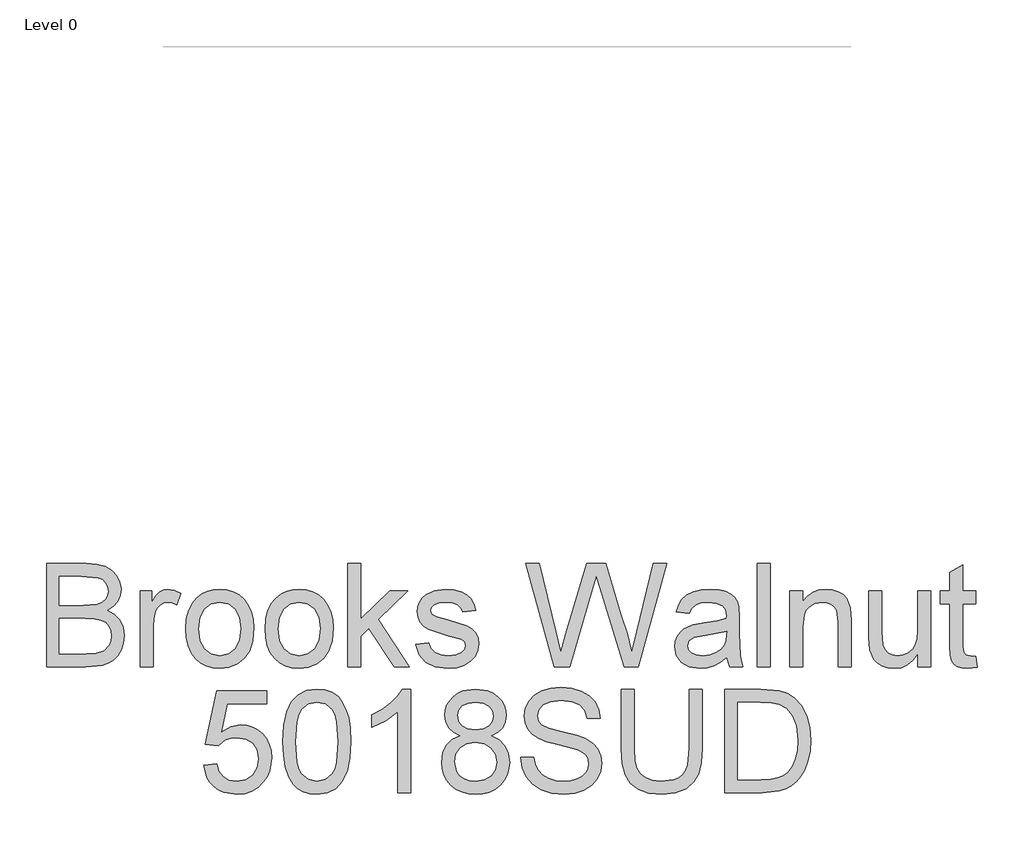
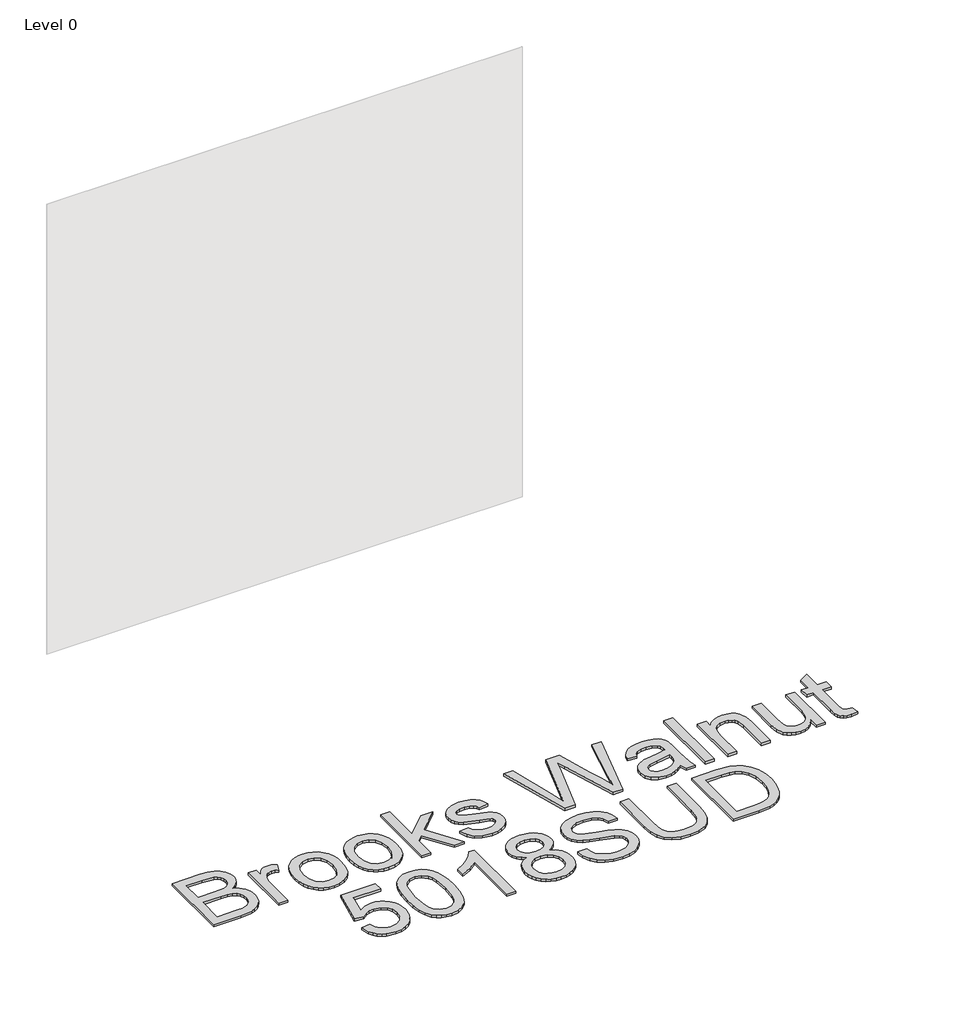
# One storey, part 9 of 43: 1 proxy.
"""IFC4 building model written with IfcOpenShell, lengths in millimetres."""

import ifcopenshell
import ifcopenshell.guid

model = None  # the IFC model being written
_history = None  # IfcOwnerHistory: only IFC2X3 demands one
_inside = {}  # id of a spatial element -> (the spatial element, [elements in it])
_under = {}  # id of a project, library or spatial element -> (it, [spatial elements below it])
_declared = {}  # id of a project -> (the project, [libraries it declares])
_typed = {}  # id of a type object -> (the type object, [elements of that type])
_made_of = {}  # id of a material, layer set ... -> (it, [elements and type objects made of it])


def new_model(schema):
    """Start an empty IFC model of exactly this schema.

    Asked for "IFC4X3", IfcOpenShell would pick the latest addendum, in which some entities
    have other attributes; the version numbers below select the first issue.
    IFC2X3 requires an IfcOwnerHistory on every rooted entity: one is made here for all.
    """
    global model, _history
    if schema == "IFC4X3":
        model = ifcopenshell.file(schema_version=(4, 3, 0, 0))
    else:
        model = ifcopenshell.file(schema=schema)
    _inside.clear()
    _under.clear()
    _declared.clear()
    _typed.clear()
    _made_of.clear()
    _history = None
    if model.schema == "IFC2X3":
        org = make("IfcOrganization", Name="unknown")
        user = make(
            "IfcPersonAndOrganization",
            ThePerson=make("IfcPerson", FamilyName="unknown"),
            TheOrganization=org,
        )
        app = make(
            "IfcApplication",
            ApplicationDeveloper=org,
            Version="unknown",
            ApplicationFullName="unknown",
            ApplicationIdentifier="unknown",
        )
        _history = make(
            "IfcOwnerHistory",
            OwningUser=user,
            OwningApplication=app,
            ChangeAction="ADDED",
            CreationDate=0,
        )
    return model


def make(cls, **values):
    """One entity of the class cls with the attributes given. An attribute that is None is left unset."""
    return model.create_entity(
        cls, **{name: value for name, value in values.items() if value is not None}
    )


def rooted(cls, **values):
    """An entity with a GlobalId (a new one), such as an element, a storey or a relation."""
    return make(cls, GlobalId=ifcopenshell.guid.new(), OwnerHistory=_history, **values)


def si_unit(unit_type, name, prefix=None):
    """IfcSIUnit, for example si_unit("LENGTHUNIT", "METRE", prefix="MILLI")."""
    return make("IfcSIUnit", UnitType=unit_type, Prefix=prefix, Name=name)


def assignment(units):
    """IfcUnitAssignment: the units of a project."""
    return None if units is None else make("IfcUnitAssignment", Units=units)


def point(xyz):
    """IfcCartesianPoint."""
    return None if xyz is None else make("IfcCartesianPoint", Coordinates=xyz)


def direction(xyz):
    """IfcDirection."""
    return None if xyz is None else make("IfcDirection", DirectionRatios=xyz)


def frame(location, z_axis=None, x_axis=None):
    """IfcAxis2Placement3D, a coordinate frame: its origin and axes. An axis left out is left unset."""
    return make(
        "IfcAxis2Placement3D",
        Location=point(location),
        Axis=direction(z_axis),
        RefDirection=direction(x_axis),
    )


def origin():
    """The frame at (0, 0, 0) with its axes left unset."""
    return frame((0.0, 0.0, 0.0))


def origin_with_axes():
    """The frame at (0, 0, 0) with the z axis (0, 0, 1) and the x axis (1, 0, 0) written out."""
    return frame((0.0, 0.0, 0.0), z_axis=(0.0, 0.0, 1.0), x_axis=(1.0, 0.0, 0.0))


def place(relative_to, where):
    """IfcLocalPlacement: puts the frame where relative to a parent placement (None: the world)."""
    return make(
        "IfcLocalPlacement", PlacementRelTo=relative_to, RelativePlacement=where
    )


def context(
    kind, dimensions, precision=None, world=None, true_north=None, identifier=None
):
    """IfcGeometricRepresentationContext, for example the 3D "Model" context."""
    return make(
        "IfcGeometricRepresentationContext",
        ContextIdentifier=identifier,
        ContextType=kind,
        CoordinateSpaceDimension=dimensions,
        Precision=precision,
        WorldCoordinateSystem=world,
        TrueNorth=true_north,
    )


def project(units=None, contexts=None):
    """IfcProject with its units and contexts."""
    return rooted(
        "IfcProject",
        Name="project",
        RepresentationContexts=contexts,
        UnitsInContext=assignment(units),
    )


def spatial(cls, under=None, at=None, **own):
    """A site, building, storey or space (cls), placed at a placement, below another one or the project."""
    s = rooted(cls, ObjectPlacement=at, **own)
    if under is not None:
        _under.setdefault(under.id(), (under, []))[1].append(s)
    return s


def polyline(points):
    """IfcPolyline through the points."""
    return make("IfcPolyline", Points=[point(p) for p in points])


def outline(outer, holes=None, kind="AREA"):
    """IfcArbitraryClosedProfileDef: a profile drawn as a closed curve; with holes, ...WithVoids."""
    if holes is None:
        return make("IfcArbitraryClosedProfileDef", ProfileType=kind, OuterCurve=outer)
    return make(
        "IfcArbitraryProfileDefWithVoids",
        ProfileType=kind,
        OuterCurve=outer,
        InnerCurves=holes,
    )


def extrude(swept, where, along, depth):
    """IfcExtrudedAreaSolid: the profile swept, set in the frame where, extruded along a direction by depth."""
    return make(
        "IfcExtrudedAreaSolid",
        SweptArea=swept,
        Position=where,
        ExtrudedDirection=direction(along),
        Depth=depth,
    )


def shape(context_of_items, identifier, shape_type, items):
    """IfcShapeRepresentation: the items that make up one representation, for example the "Body"."""
    return make(
        "IfcShapeRepresentation",
        ContextOfItems=context_of_items,
        RepresentationIdentifier=identifier,
        RepresentationType=shape_type,
        Items=items,
    )


def made_of(thing, what):
    """Note that an element or type object is made of a material, layer set ...; save() writes the relation."""
    if what is not None:
        _made_of.setdefault(what.id(), (what, []))[1].append(thing)
    return thing


def element(
    cls,
    number,
    at=None,
    inside=None,
    cuts=None,
    type_object=None,
    material=None,
    context=None,
    identifier="Body",
    shape_type=None,
    held_by="IfcProductDefinitionShape",
    body=None,
    shapes=None,
    **own,
):
    """One element of the class cls, such as IfcWall. Its Tag is "e" and its number.

    at: its placement. inside: the storey or other place that contains it. cuts: it is an
    opening in that element (IfcRelVoidsElement). A single representation is given by context,
    identifier, shape_type and body (its items); several are given by shapes. held_by: the class
    of the entity that holds the representations. save() writes the other relations.
    """
    e = rooted(cls, Tag="e%d" % number, ObjectPlacement=at, **own)
    if body is not None:
        shapes = [shape(context, identifier, shape_type, body)]
    if shapes is not None:
        e.Representation = make(held_by, Representations=shapes)
    if inside is not None:
        _inside.setdefault(inside.id(), (inside, []))[1].append(e)
    if cuts is not None:
        rooted(
            "IfcRelVoidsElement", RelatingBuildingElement=cuts, RelatedOpeningElement=e
        )
    if type_object is not None:
        _typed.setdefault(type_object.id(), (type_object, []))[1].append(e)
    return made_of(e, material)


def aggregate(whole, parts):
    """IfcRelAggregates: a whole, such as a stair, and the parts it consists of."""
    return rooted("IfcRelAggregates", RelatingObject=whole, RelatedObjects=parts)


def save(model, path):
    """Write the relations noted so far, then the file.

    IfcRelAggregates (storeys below a building ...), IfcRelContainedInSpatialStructure (elements
    in a storey), IfcRelDefinesByType, IfcRelAssociatesMaterial and IfcRelDeclares: one each for
    every whole, place, type object, material and project.
    """
    for whole, parts in _under.values():
        aggregate(whole, parts)
    for where, things in _inside.values():
        rooted(
            "IfcRelContainedInSpatialStructure",
            RelatedElements=things,
            RelatingStructure=where,
        )
    for kind, things in _typed.values():
        rooted("IfcRelDefinesByType", RelatedObjects=things, RelatingType=kind)
    for what, things in _made_of.values():
        rooted("IfcRelAssociatesMaterial", RelatedObjects=things, RelatingMaterial=what)
    for by, libraries in _declared.values():
        rooted("IfcRelDeclares", RelatingContext=by, RelatedDefinitions=libraries)
    model.write(path)


model = new_model("IFC4")

# Units and contexts
model_context = context("Model", 3, world=origin())
ifc_project = project(units=[si_unit("LENGTHUNIT", "METRE", prefix="MILLI")], contexts=[model_context])

# Site, building, storey
site = spatial("IfcSite", under=ifc_project)
building = spatial("IfcBuilding", under=site)
storey = spatial("IfcBuildingStorey", under=building, Name="Level 0", Elevation=0.0)

# Proxy
placement = place(None, origin())
element("IfcBuildingElementProxy", 1, Name="300mm Arial", ObjectType="300mm Arial", at=placement, inside=storey, context=model_context, shape_type="SweptSolid", body=[
    extrude(outline(polyline([(-10790.3371299, -17000.860494), (-10790.3371299, -16699.4915635), (-10675.3372183, -16699.4915635), (-10643.7085637, -16701.7080526), (-10619.0144848, -16708.3575196), (-10600.0869561, -16719.6055116), (-10585.7579524, -16735.6175755), (-10576.7356465, -16754.4531336), (-10573.7282112, -16774.1716086), (-10576.2573999, -16792.317388), (-10583.8449661, -16809.3779155), (-10596.5460919, -16824.3047274), (-10614.4159598, -16836.0493601), (-10593.0696071, -16847.1961846), (-10577.2966665, -16864.1555446), (-10567.5569907, -16885.8054), (-10564.3104321, -16911.0237108), (-10566.5269211, -16932.0389697), (-10573.1763882, -16951.5275184), (-10583.100005, -16968.1006023), (-10595.1389433, -16980.3694669), (-10609.8818143, -16989.253817), (-10627.9172291, -16995.6733578), (-10676.220135, -17000.860494), (-10790.3371299, -17000.860494)]), holes=[polyline([(-10752.6660136, -16821.9226915), (-10683.8720805, -16821.9226915), (-10643.6993667, -16818.68533), (-10629.6370774, -16813.1027207), (-10619.5295196, -16804.7426024), (-10613.4318755, -16793.7337336), (-10611.3993275, -16780.2048733), (-10613.2939198, -16767.071486), (-10618.9776966, -16755.630356), (-10628.1931406, -16746.7000206), (-10640.6827343, -16741.0990172), (-10689.0960049, -16737.1626798), (-10752.6660136, -16737.1626798), (-10752.6660136, -16821.9226915)]), polyline([(-10752.6660136, -16963.1893777), (-10675.4107946, -16963.1893777), (-10647.451763, -16961.7178497), (-10623.7969507, -16953.5140812), (-10608.1251777, -16936.7754504), (-10603.5174557, -16924.9480443), (-10601.9815484, -16911.3915928), (-10603.7841702, -16895.6462434), (-10609.1920355, -16882.1081859), (-10618.6374057, -16871.5223815), (-10632.5525422, -16864.6337912), (-10652.2618201, -16860.8538037), (-10679.0896146, -16859.5938078), (-10752.6660136, -16859.5938078), (-10752.6660136, -16963.1893777)])]), origin_with_axes(), (0.0, 0.0, 1.0), 10.0),
    extrude(outline(polyline([(-10517.2215367, -17000.860494), (-10517.2215367, -16779.5426857), (-10484.25931, -16779.5426857), (-10484.25931, -16812.2841833), (-10472.0824159, -16793.3014723), (-10460.8620151, -16782.1178596), (-10449.604826, -16776.654812), (-10437.3175674, -16774.8337961), (-10418.5555856, -16777.7400639), (-10399.4992983, -16786.4588672), (-10412.0808625, -16820.2304343), (-10425.3246143, -16814.4362929), (-10438.5683662, -16812.5049125), (-10449.8163582, -16814.3627165), (-10459.8687337, -16819.9361288), (-10467.9897287, -16828.8020848), (-10473.4435793, -16840.5375205), (-10478.0237101, -16861.5803706), (-10479.5504204, -16884.5362071), (-10479.5504204, -17000.860494), (-10517.2215367, -17000.860494)])), origin_with_axes(), (0.0, 0.0, 1.0), 10.0),
    extrude(outline(polyline([(-10385.3726297, -16890.2015898), (-10383.3354831, -16861.5389839), (-10377.2240435, -16836.8403064), (-10367.0383107, -16816.1055575), (-10352.7782849, -16799.334737), (-10338.42169, -16788.6155754), (-10322.5751731, -16780.9590314), (-10305.2387341, -16776.3651049), (-10286.4123729, -16774.8337961), (-10265.6293395, -16776.698498), (-10246.8374673, -16782.2926036), (-10230.0367565, -16791.6161129), (-10215.2272069, -16804.669026), (-10203.1399841, -16821.0098843), (-10194.5062535, -16840.1972296), (-10189.3260152, -16862.2310619), (-10187.599269, -16887.1113811), (-10190.6526896, -16925.1687735), (-10199.8129513, -16954.1394806), (-10214.8133396, -16975.8353213), (-10235.3871402, -16992.0681143), (-10259.8237017, -17002.1940662), (-10286.4123729, -17005.5693835), (-10307.4989091, -17003.7115794), (-10326.4655252, -16998.1381672), (-10343.3122213, -16988.8491468), (-10358.0389974, -16975.8445183), (-10369.9974615, -16959.3450108), (-10378.5392216, -16939.5713536), (-10383.6642776, -16916.5235466), (-10385.3726297, -16890.2015898)]), holes=[polyline([(-10347.7015133, -16890.1280134), (-10343.3421117, -16924.2214773), (-10330.2639068, -16948.5108861), (-10310.58222, -16963.0514219), (-10286.4123729, -16967.8982672), (-10262.3528905, -16963.0238308), (-10242.7079919, -16948.4005215), (-10229.629787, -16923.789216), (-10225.2703854, -16888.950791), (-10229.6573781, -16855.8506085), (-10242.8183565, -16831.8922936), (-10262.4908462, -16817.3517577), (-10286.4123729, -16812.5049125), (-10310.58222, -16817.3333636), (-10330.2639068, -16831.8187172), (-10343.3421117, -16856.0529436), (-10347.7015133, -16890.1280134)])]), origin_with_axes(), (0.0, 0.0, 1.0), 10.0),
    extrude(outline(polyline([(-10154.6370423, -16890.2015898), (-10152.5998957, -16861.5389839), (-10146.4884561, -16836.8403064), (-10136.3027233, -16816.1055575), (-10122.0426975, -16799.334737), (-10107.6861026, -16788.6155754), (-10091.8395857, -16780.9590314), (-10074.5031467, -16776.3651049), (-10055.6767856, -16774.8337961), (-10034.8937521, -16776.698498), (-10016.1018799, -16782.2926036), (-9999.3011691, -16791.6161129), (-9984.4916195, -16804.669026), (-9972.4043967, -16821.0098843), (-9963.7706661, -16840.1972296), (-9958.5904278, -16862.2310619), (-9956.8636817, -16887.1113811), (-9959.9171022, -16925.1687735), (-9969.0773639, -16954.1394806), (-9984.0777523, -16975.8353213), (-10004.6515528, -16992.0681143), (-10029.0881144, -17002.1940662), (-10055.6767856, -17005.5693835), (-10076.7633217, -17003.7115794), (-10095.7299378, -16998.1381672), (-10112.5766339, -16988.8491468), (-10127.30341, -16975.8445183), (-10139.2618741, -16959.3450108), (-10147.8036342, -16939.5713536), (-10152.9286903, -16916.5235466), (-10154.6370423, -16890.2015898)]), holes=[polyline([(-10116.965926, -16890.1280134), (-10112.6065243, -16924.2214773), (-10099.5283194, -16948.5108861), (-10079.8466327, -16963.0514219), (-10055.6767856, -16967.8982672), (-10031.6173031, -16963.0238308), (-10011.9724045, -16948.4005215), (-9998.8941996, -16923.789216), (-9994.534798, -16888.950791), (-9998.9217908, -16855.8506085), (-10012.0827691, -16831.8922936), (-10031.7552588, -16817.3517577), (-10055.6767856, -16812.5049125), (-10079.8466327, -16817.3333636), (-10099.5283194, -16831.8187172), (-10112.6065243, -16856.0529436), (-10116.965926, -16890.1280134)])]), origin_with_axes(), (0.0, 0.0, 1.0), 10.0),
    extrude(outline(polyline([(-9914.4836758, -17000.860494), (-9914.4836758, -16699.4915635), (-9876.8125595, -16699.4915635), (-9876.8125595, -16861.4332178), (-9792.3468534, -16779.5426857), (-9740.2547629, -16779.5426857), (-9825.7505386, -16862.4632874), (-9735.5458734, -17000.860494), (-9779.54456, -17000.860494), (-9852.753077, -16888.6564855), (-9876.8125595, -16911.9802039), (-9876.8125595, -17000.860494), (-9914.4836758, -17000.860494)])), origin_with_axes(), (0.0, 0.0, 1.0), 10.0),
    extrude(outline(polyline([(-9716.7103152, -16934.9360404), (-9679.0391989, -16930.2271509), (-9673.0979047, -16946.3403823), (-9661.6015923, -16958.1861825), (-9644.4766855, -16965.470246), (-9621.6496077, -16967.8982672), (-9599.0984414, -16965.6725811), (-9583.2427274, -16958.9955229), (-9573.8617365, -16949.3202265), (-9570.7347395, -16938.0998256), (-9573.8801306, -16928.4981055), (-9583.3163038, -16921.1772538), (-9622.0910661, -16910.4350996), (-9678.8184697, -16892.0042116), (-9693.1750646, -16882.7427824), (-9703.576928, -16870.4831149), (-9709.8953013, -16856.0069584), (-9712.0014257, -16840.0960621), (-9710.3091685, -16825.5003439), (-9705.232397, -16812.0266659), (-9697.2309636, -16800.2084568), (-9686.7647208, -16790.5791455), (-9662.8156029, -16779.4323211), (-9630.4051992, -16774.8337961), (-9605.8858642, -16776.6824032), (-9584.5671026, -16782.2282242), (-9567.4238016, -16790.9286334), (-9555.4308485, -16802.2410048), (-9547.4845974, -16817.0022698), (-9542.4814023, -16836.0493601), (-9580.1525186, -16840.7582497), (-9584.9073934, -16828.9032524), (-9594.3159754, -16819.972917), (-9608.4702352, -16814.3719136), (-9627.4621432, -16812.5049125), (-9649.0936045, -16814.2891401), (-9663.5145787, -16819.6418232), (-9671.6263767, -16827.3673451), (-9674.3303094, -16836.2700893), (-9669.842149, -16847.2329728), (-9655.7890568, -16855.5471059), (-9623.3418648, -16863.5669334), (-9568.049201, -16881.2988455), (-9553.4442858, -16889.7785255), (-9542.3710377, -16901.3852025), (-9535.3904768, -16916.1556646), (-9533.0636232, -16934.1267001), (-9535.795147, -16952.7047408), (-9543.9897185, -16970.1791356), (-9557.3346379, -16985.1795239), (-9575.5172055, -16996.3355454), (-9597.4797606, -17003.260924), (-9622.1646425, -17005.5693835), (-9660.1484585, -17001.1180114), (-9687.8683668, -16987.763895), (-9706.3728312, -16965.654187), (-9716.7103152, -16934.9360404)])), origin_with_axes(), (0.0, 0.0, 1.0), 10.0),
    extrude(outline(polyline([(-9314.3209889, -17000.860494), (-9396.5058266, -16699.4915635), (-9357.6574879, -16699.4915635), (-9309.9799814, -16897.5592297), (-9295.2647015, -16958.7012173), (-9279.5193522, -16904.622564), (-9219.7753161, -16699.4915635), (-9163.7836765, -16699.4915635), (-9120.373601, -16848.189466), (-9101.7771662, -16903.3717653), (-9088.0735619, -16958.7012173), (-9073.7997404, -16899.3250633), (-9025.6807755, -16699.4915635), (-8986.8324368, -16699.4915635), (-9069.0908509, -17000.860494), (-9109.3371412, -17000.860494), (-9181.589165, -16768.359073), (-9191.6691317, -16735.9118811), (-9202.9998972, -16774.9809489), (-9268.8507743, -17000.860494), (-9314.3209889, -17000.860494)])), origin_with_axes(), (0.0, 0.0, 1.0), 10.0),
    extrude(outline(polyline([(-8812.6035239, -16972.6071568), (-8830.6021505, -16988.0398064), (-8849.134206, -16998.1381672), (-8868.6227547, -17003.7115794), (-8889.4908609, -17005.5693835), (-8920.9723626, -17001.0996173), (-8944.1949135, -16987.6903186), (-8958.5147202, -16967.3280501), (-8963.2879891, -16941.9993748), (-8961.4853673, -16926.3827841), (-8956.077502, -16912.2009331), (-8947.7357778, -16900.0608273), (-8937.1315792, -16890.5694718), (-8910.7544402, -16878.2086368), (-8878.1600954, -16872.5432541), (-8839.6428505, -16866.5835657), (-8812.8242531, -16859.5938078), (-8812.6035239, -16851.2060983), (-8815.1970919, -16834.3938912), (-8822.9777961, -16823.3942195), (-8840.3786145, -16815.2272392), (-8864.622038, -16812.5049125), (-8887.0628397, -16814.3167313), (-8902.7346127, -16819.7521878), (-8913.4215847, -16829.8045633), (-8920.9079833, -16845.4671392), (-8958.5790996, -16840.7582497), (-8952.0399971, -16820.156858), (-8942.2819272, -16803.9700502), (-8928.3943819, -16791.590821), (-8909.4668532, -16782.4121652), (-8886.3178787, -16776.7283884), (-8859.7659957, -16774.8337961), (-8834.2993645, -16776.5076592), (-8814.1118401, -16781.5292485), (-8798.8907225, -16789.0800264), (-8788.3233122, -16798.3414556), (-8781.3151602, -16809.7917827), (-8776.7718175, -16823.9092543), (-8774.9324076, -16856.8714811), (-8774.9324076, -16903.7396473), (-8773.0194212, -16969.1858542), (-8765.5146285, -17000.860494), (-8803.1857448, -17000.860494), (-8812.6035239, -16972.6071568)]), holes=[polyline([(-8812.6035239, -16897.2649241), (-8873.3776295, -16908.8164188), (-8905.7880333, -16914.9232599), (-8920.4665249, -16924.8560738), (-8925.6168728, -16939.3506244), (-8922.8117726, -16950.5526311), (-8914.3964719, -16959.7312869), (-8900.5549119, -16965.8565221), (-8881.4710334, -16967.8982672), (-8861.2375236, -16965.64499), (-8843.3584587, -16958.8851583), (-8828.8639081, -16948.9247533), (-8818.7839414, -16937.069756), (-8814.3141752, -16924.8560738), (-8812.8242531, -16907.933502), (-8812.6035239, -16897.2649241)])]), origin_with_axes(), (0.0, 0.0, 1.0), 10.0),
    extrude(outline(polyline([(-8723.1346226, -17000.860494), (-8723.1346226, -16699.4915635), (-8685.4635063, -16699.4915635), (-8685.4635063, -17000.860494), (-8723.1346226, -17000.860494)])), origin_with_axes(), (0.0, 0.0, 1.0), 10.0),
    extrude(outline(polyline([(-8628.9568319, -17000.860494), (-8628.9568319, -16779.5426857), (-8591.2857156, -16779.5426857), (-8591.2857156, -16810.4447733), (-8578.1983136, -16794.8649708), (-8562.4805554, -16783.7365404), (-8544.1324408, -16777.0594822), (-8523.1539701, -16774.8337961), (-8504.5851264, -16776.6272209), (-8487.5797811, -16782.0074951), (-8473.3979302, -16790.303234), (-8463.2995695, -16800.8430532), (-8452.0055922, -16828.5445674), (-8450.0190294, -16864.964885), (-8450.0190294, -17000.860494), (-8487.6901457, -17000.860494), (-8487.6901457, -16870.0416565), (-8492.0311533, -16836.7115477), (-8498.0368268, -16826.7879309), (-8507.3718325, -16819.0900002), (-8519.3371944, -16814.1511844), (-8533.2339367, -16812.5049125), (-8555.2976594, -16816.2021265), (-8574.1056264, -16827.2937687), (-8581.6219154, -16836.3482643), (-8586.9906933, -16848.7228949), (-8591.2857156, -16883.4325611), (-8591.2857156, -17000.860494), (-8628.9568319, -17000.860494)])), origin_with_axes(), (0.0, 0.0, 1.0), 10.0),
    extrude(outline(polyline([(-8256.9545584, -17000.860494), (-8256.9545584, -16962.8214957), (-8270.5845863, -16981.5236966), (-8286.4586944, -16994.8824116), (-8304.5768826, -17002.8976405), (-8324.9391511, -17005.5693835), (-8343.2872656, -17003.6931853), (-8360.3661872, -16998.0645908), (-8374.6951909, -16989.6033049), (-8384.7935517, -16979.2290327), (-8396.0139525, -16951.4907302), (-8398.2212445, -16916.4683643), (-8398.2212445, -16779.5426857), (-8360.5501282, -16779.5426857), (-8360.5501282, -16898.7364521), (-8358.2692598, -16937.1433324), (-8352.7786211, -16949.9548229), (-8343.370039, -16959.6944987), (-8330.6689131, -16965.8473251), (-8315.3006428, -16967.8982672), (-8299.0494557, -16965.8013398), (-8283.8467322, -16959.5105577), (-8271.3111532, -16949.605335), (-8263.0613995, -16936.6650858), (-8258.4812686, -16918.9423707), (-8256.9545584, -16894.6897502), (-8256.9545584, -16779.5426857), (-8219.2834421, -16779.5426857), (-8219.2834421, -17000.860494), (-8256.9545584, -17000.860494)])), origin_with_axes(), (0.0, 0.0, 1.0), 10.0),
    extrude(outline(polyline([(-8087.434535, -16969.4433716), (-8082.7256454, -17001.96414), (-8110.9054063, -17005.5693835), (-8128.9868063, -17004.005885), (-8142.4696815, -16999.3153896), (-8151.9978251, -16992.0865084), (-8158.2150309, -16982.9078526), (-8161.6363334, -16967.1441091), (-8162.7767676, -16940.1599648), (-8162.7767676, -16817.213802), (-8191.0301048, -16817.213802), (-8191.0301048, -16779.5426857), (-8162.7767676, -16779.5426857), (-8162.7767676, -16725.758338), (-8125.1056513, -16703.6118419), (-8125.1056513, -16779.5426857), (-8087.434535, -16779.5426857), (-8087.434535, -16817.213802), (-8125.1056513, -16817.213802), (-8125.1056513, -16939.0563188), (-8123.1190885, -16958.4804881), (-8116.6811536, -16965.3598814), (-8103.842072, -16967.8982672), (-8087.434535, -16969.4433716)])), origin_with_axes(), (0.0, 0.0, 1.0), 10.0),
    extrude(outline(polyline([(-10333.5748447, -17286.7338254), (-10295.9037284, -17282.0249358), (-10288.9875469, -17304.6404815), (-10276.9210175, -17320.8364863), (-10259.7593224, -17330.5761621), (-10237.557644, -17333.8227207), (-10210.5551055, -17329.3069693), (-10190.3215958, -17315.7597148), (-10177.6848493, -17294.7444558), (-10173.4726004, -17267.8246908), (-10177.4181348, -17242.4776213), (-10189.254738, -17223.0902402), (-10209.0743805, -17210.7845875), (-10236.9690328, -17206.6827032), (-10255.2435709, -17208.3197781), (-10270.0416242, -17213.2310027), (-10291.1948389, -17230.2271509), (-10328.8659552, -17225.5182614), (-10295.9037284, -17070.1249066), (-10149.9281527, -17070.1249066), (-10149.9281527, -17107.7960229), (-10265.4430992, -17107.7960229), (-10281.5563306, -17190.790201), (-10254.6457627, -17174.4562404), (-10226.4476077, -17169.0115869), (-10208.1017925, -17170.6992456), (-10191.2504978, -17175.7622215), (-10175.8937238, -17184.2005148), (-10162.0314704, -17196.0141254), (-10150.5558514, -17210.4810848), (-10142.3589807, -17226.8794248), (-10137.4408583, -17245.2091452), (-10135.8014841, -17265.470246), (-10141.7059901, -17303.1413624), (-10149.0866227, -17319.9351754), (-10159.4195082, -17335.3678251), (-10175.0728871, -17351.1729553), (-10193.3382282, -17362.4623341), (-10214.2155314, -17369.2359613), (-10237.7047968, -17371.4938371), (-10274.7045285, -17365.6904986), (-10290.3831992, -17358.4363255), (-10304.1810733, -17348.2804832), (-10315.6612908, -17335.7288093), (-10324.3869919, -17321.2871418), (-10333.5748447, -17286.7338254)])), origin_with_axes(), (0.0, 0.0, 1.0), 10.0),
    extrude(outline(polyline([(-10102.8392574, -17218.5285035), (-10100.0709453, -17170.2899768), (-10091.7660093, -17131.8187172), (-10078.0072227, -17102.5261133), (-10058.8773589, -17081.8235541), (-10034.2384623, -17069.5179013), (-10003.9525771, -17065.4160171), (-9980.7392232, -17067.8440382), (-9959.9538904, -17075.1281017), (-9942.5714662, -17086.983099), (-9929.5668376, -17103.1239216), (-9919.7443884, -17123.4126136), (-9911.9085019, -17147.7112194), (-9906.776548, -17178.5673217), (-9905.0658967, -17218.5285035), (-9907.8066176, -17266.4911186), (-9916.0287802, -17304.8704077), (-9929.7047934, -17334.1906027), (-9948.807066, -17354.9759355), (-9973.5011449, -17367.3643617), (-10003.9525771, -17371.4938371), (-10024.7011216, -17369.7004123), (-10043.0952213, -17364.3201381), (-10059.1348763, -17355.3530145), (-10072.8200866, -17342.7990414), (-10085.9534738, -17320.1053209), (-10095.3344647, -17291.828991), (-10100.9630592, -17257.9700519), (-10102.8392574, -17218.5285035)]), holes=[polyline([(-10065.1681411, -17218.4549271), (-10060.7535571, -17277.7115194), (-10055.2353272, -17297.9795181), (-10047.5098053, -17312.0073184), (-10027.7913303, -17328.3688702), (-10003.9525771, -17333.8227207), (-9980.1138238, -17328.3504761), (-9960.3953488, -17311.933742), (-9952.6698269, -17297.8829491), (-9947.151597, -17277.6195489), (-9942.7370131, -17218.4549271), (-9947.0044442, -17160.5319069), (-9952.3387331, -17140.3305869), (-9959.8067376, -17125.9693935), (-9979.4884244, -17108.8076984), (-10004.3940354, -17103.0871334), (-10027.9752713, -17108.1271167), (-10046.9211941, -17123.2470667), (-10054.9042334, -17138.8820515), (-10060.6064043, -17159.9616898), (-10065.1681411, -17218.4549271)])]), origin_with_axes(), (0.0, 0.0, 1.0), 10.0),
    extrude(outline(polyline([(-9730.8369838, -17366.7849475), (-9768.5081001, -17366.7849475), (-9768.5081001, -17131.9290818), (-9804.1926537, -17157.3497277), (-9843.8503328, -17176.3692268), (-9843.8503328, -17140.7582497), (-9814.2634233, -17124.6634124), (-9788.6312453, -17105.5151545), (-9768.4253267, -17085.1528861), (-9755.1171955, -17065.4160171), (-9730.8369838, -17065.4160171), (-9730.8369838, -17366.7849475)])), origin_with_axes(), (0.0, 0.0, 1.0), 10.0),
    extrude(outline(polyline([(-9586.4800889, -17200.7965913), (-9606.6492193, -17190.8637774), (-9620.8034791, -17177.3992964), (-9629.1635974, -17160.6790597), (-9631.9503035, -17140.9789789), (-9630.4327903, -17125.6153071), (-9625.8802506, -17111.5300252), (-9618.2926845, -17098.7231332), (-9607.6700918, -17087.1946312), (-9594.522909, -17077.6664875), (-9579.3615723, -17070.8606706), (-9542.9964371, -17065.4160171), (-9506.4105727, -17070.9894293), (-9491.0836891, -17077.9561946), (-9477.7341712, -17087.709666), (-9466.9184405, -17099.4634957), (-9459.1929186, -17112.4313361), (-9454.5576055, -17126.613187), (-9453.0125011, -17142.0090485), (-9455.762419, -17161.0745329), (-9464.0121727, -17177.509661), (-9477.8537328, -17190.8913686), (-9497.3790697, -17200.7965913), (-9474.1933069, -17212.7435591), (-9457.3167204, -17230.3375155), (-9447.0252216, -17252.732332), (-9443.594722, -17279.0818799), (-9445.2961762, -17297.8714528), (-9450.4005389, -17315.0975272), (-9458.90781, -17330.7601031), (-9470.8179896, -17344.8591806), (-9485.5056783, -17356.5118428), (-9502.3454766, -17364.8351729), (-9521.3373846, -17369.829171), (-9542.4814023, -17371.4938371), (-9563.62542, -17369.8222732), (-9582.617328, -17364.8075818), (-9599.4571263, -17356.4497627), (-9614.144815, -17344.748816), (-9626.0549946, -17330.5508703), (-9634.5622657, -17314.702054), (-9639.6666284, -17297.2023674), (-9641.3680826, -17278.0518103), (-9637.7996273, -17250.6813898), (-9627.0942612, -17228.1670117), (-9609.8038074, -17211.2812282), (-9586.4800889, -17200.7965913)]), holes=[polyline([(-9594.2791872, -17142.0826249), (-9590.9406581, -17158.52695), (-9580.9250708, -17171.6603373), (-9564.5267309, -17180.268776), (-9542.0399439, -17183.1382555), (-9520.0773888, -17180.2871701), (-9503.9273692, -17171.7339137), (-9493.9945553, -17159.0419848), (-9490.6836174, -17143.774882), (-9494.1049199, -17127.9283651), (-9504.3688276, -17114.822569), (-9520.7395764, -17106.0209923), (-9542.4814023, -17103.0871334), (-9564.361184, -17105.9566129), (-9580.7043416, -17114.5650516), (-9590.8854758, -17127.1834041), (-9594.2791872, -17142.0826249)]), polyline([(-9603.6969663, -17276.7274351), (-9597.4061842, -17305.0911369), (-9588.6965779, -17317.2588339), (-9575.1493235, -17326.317928), (-9558.9257275, -17331.9465226), (-9542.1870967, -17333.8227207), (-9516.5457216, -17329.8771864), (-9497.3054933, -17318.0405832), (-9485.2757521, -17300.1155329), (-9481.2658383, -17277.9046575), (-9485.4045108, -17255.316703), (-9497.8205281, -17236.9961796), (-9517.5022148, -17224.8560738), (-9543.4378955, -17220.8093718), (-9568.7205856, -17224.8008915), (-9587.7676759, -17236.7754504), (-9599.7146437, -17254.7464859), (-9603.6969663, -17276.7274351)])]), origin_with_axes(), (0.0, 0.0, 1.0), 10.0),
    extrude(outline(polyline([(-9410.6324952, -17263.1893777), (-9372.9613789, -17263.1893777), (-9368.6387655, -17284.0942721), (-9360.8212731, -17300.8972822), (-9348.6259849, -17314.2330045), (-9331.1699843, -17324.7360355), (-9309.8328286, -17331.5510494), (-9285.9940753, -17333.8227207), (-9265.0064074, -17332.1028724), (-9246.6307018, -17326.9433274), (-9231.740678, -17318.7763471), (-9221.2100559, -17308.0341929), (-9214.9468649, -17295.700949), (-9212.8591346, -17282.7606998), (-9214.4226331, -17270.1515444), (-9219.1131285, -17259.2530403), (-9228.6412722, -17249.9548229), (-9244.7177154, -17242.1465276), (-9299.5689209, -17227.7623415), (-9335.5753712, -17218.2433949), (-9358.6139811, -17209.1843008), (-9377.3667658, -17196.510766), (-9390.6565029, -17181.1516928), (-9398.5751628, -17163.4381747), (-9401.2147162, -17143.7013056), (-9397.9497634, -17121.637583), (-9388.1549053, -17101.0637824), (-9372.0876592, -17083.6261758), (-9350.0055424, -17070.9710352), (-9323.4996447, -17063.2731044), (-9294.1610556, -17060.7071275), (-9262.3760512, -17063.3926661), (-9234.5641723, -17071.4492818), (-9211.7187004, -17084.7114277), (-9194.8329169, -17103.013557), (-9184.1459449, -17125.2152354), (-9179.8969079, -17150.1760288), (-9217.5680242, -17150.1760288), (-9224.4842057, -17127.6984389), (-9238.9051799, -17111.4748429), (-9261.4379521, -17101.6523936), (-9292.6895276, -17098.3782438), (-9324.6768671, -17101.6156054), (-9346.6210281, -17111.3276901), (-9359.3129569, -17125.6199056), (-9363.5435998, -17142.5976597), (-9360.5453616, -17157.0738162), (-9351.5506468, -17168.7172813), (-9330.2870675, -17179.1283418), (-9290.0407772, -17189.7601314), (-9248.5069, -17199.8584922), (-9223.3805597, -17208.669266), (-9201.9054482, -17222.3360821), (-9186.923454, -17239.2034716), (-9178.1218772, -17259.0874934), (-9175.1880183, -17281.8042066), (-9178.5633356, -17305.0267576), (-9188.6892875, -17326.869751), (-9205.1520068, -17345.668521), (-9227.5376262, -17359.7584014), (-9254.4573912, -17368.5599781), (-9284.5225473, -17371.4938371), (-9321.4303085, -17368.3300519), (-9351.8081642, -17358.8386964), (-9376.0056024, -17342.9829824), (-9394.372111, -17320.7261217), (-9406.162729, -17293.6132187), (-9410.6324952, -17263.1893777)])), origin_with_axes(), (0.0, 0.0, 1.0), 10.0),
    extrude(outline(polyline([(-8920.9079833, -17065.4160171), (-8883.2368669, -17065.4160171), (-8883.2368669, -17239.277048), (-8885.7936468, -17279.9923878), (-8893.4639864, -17311.3451308), (-8907.7929901, -17335.533372), (-8930.3257623, -17354.7552063), (-8961.1174853, -17367.3091794), (-9000.2233414, -17371.4938371), (-9038.4738719, -17367.8518053), (-9069.0540627, -17356.92571), (-9091.973111, -17339.0926303), (-9107.2402138, -17314.7296452), (-9115.8210613, -17282.052527), (-9118.6813439, -17239.277048), (-9118.6813439, -17065.4160171), (-9081.0102276, -17065.4160171), (-9081.0102276, -17237.9526728), (-9079.1524235, -17271.8070134), (-9073.5790113, -17295.3790523), (-9063.4806505, -17311.7038158), (-9048.0480008, -17323.8163305), (-9027.9248556, -17331.3211232), (-9003.7550086, -17333.8227207), (-8965.4400988, -17328.8747079), (-8951.0972995, -17322.6896919), (-8939.9642706, -17314.0306694), (-8931.6271449, -17301.8537754), (-8925.6720551, -17285.1151446), (-8920.9079833, -17237.9526728), (-8920.9079833, -17065.4160171)])), origin_with_axes(), (0.0, 0.0, 1.0), 10.0),
    extrude(outline(polyline([(-8817.3124134, -17366.7849475), (-8817.3124134, -17065.4160171), (-8713.3489616, -17065.4160171), (-8659.5646139, -17069.7570246), (-8635.5419196, -17078.12634), (-8615.2716217, -17091.3149095), (-8594.4311066, -17114.270746), (-8579.5870681, -17142.8183889), (-8570.7027179, -17176.406015), (-8567.7412679, -17214.4818015), (-8569.7462248, -17246.8278259), (-8575.7610954, -17275.2926953), (-8584.9213571, -17299.5269217), (-8596.3624871, -17319.1810173), (-8609.5326625, -17334.6964405), (-8623.8800603, -17346.5146496), (-8640.3519767, -17355.2794381), (-8659.8957077, -17361.6345996), (-8708.3457664, -17366.7849475), (-8817.3124134, -17366.7849475)]), holes=[polyline([(-8779.6412971, -17329.1138312), (-8712.9810796, -17329.1138312), (-8685.408324, -17327.7526678), (-8664.4942326, -17323.6691777), (-8648.712095, -17317.1024841), (-8636.535201, -17308.2917103), (-8623.447799, -17291.9853408), (-8613.6161527, -17270.8781114), (-8607.4633263, -17244.8780514), (-8605.4123842, -17213.8931903), (-8609.431495, -17172.8375597), (-8621.4888274, -17142.5240833), (-8639.303513, -17121.7019623), (-8660.5946835, -17109.1203981), (-8682.262933, -17104.5954496), (-8714.0111492, -17103.0871334), (-8779.6412971, -17103.0871334), (-8779.6412971, -17329.1138312)])]), origin_with_axes(), (0.0, 0.0, 1.0), 10.0),
])

save(model, "model.ifc")
